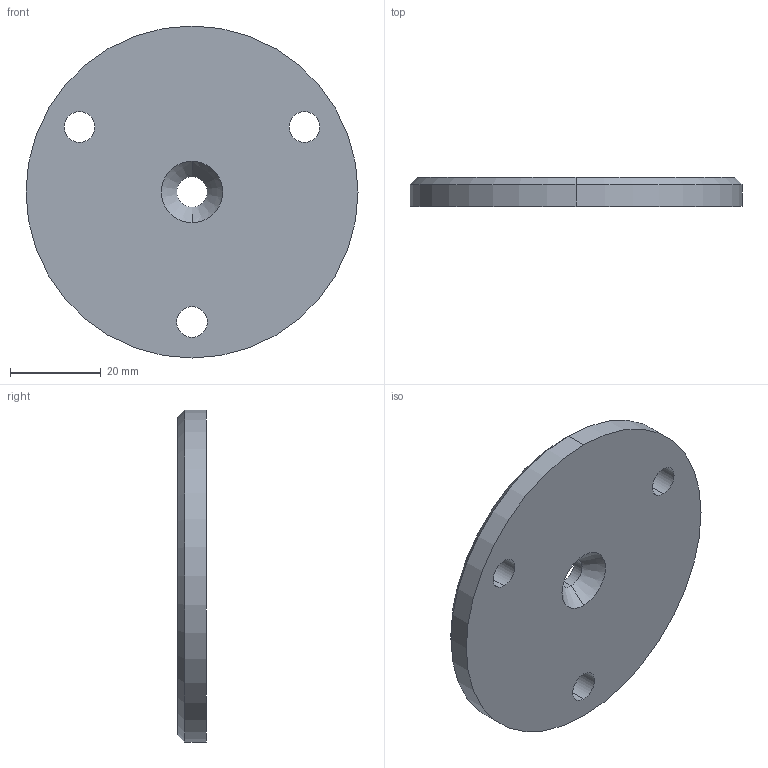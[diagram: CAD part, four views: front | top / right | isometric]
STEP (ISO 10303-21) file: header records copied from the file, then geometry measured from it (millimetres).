
FILE_DESCRIPTION (( 'STEP AP214' ), '1' );
FILE_NAME ('Flange For Modular Connectors.STEP', '2014-01-08T21:19:47', ( 'ydmin' ), ( 'Microsoft' ), 'SwSTEP 2.0', 'SolidWorks 2013', '' );
FILE_SCHEMA (( 'AUTOMOTIVE_DESIGN' ));
Length unit declared in the file: inch
Products named in the file (1): Flange For Modular Connectors
Bounding box: 73.03 x 6.35 x 73.03 mm (x, y, z)
Volume: 25215.7 mm3; surface area: 9842.9 mm2
Topology: 1 solids, 1 shells, 16 faces, 38 edges, 24 vertices
Faces by surface type: cylinder 10, cone 4, plane 2
Entity records: 738 total; most frequent: DIRECTION 96, CARTESIAN_POINT 79, ORIENTED_EDGE 76, AXIS2_PLACEMENT_3D 41, EDGE_CURVE 38, EDGE_LOOP 24, VERTEX_POINT 24, CIRCLE 24
